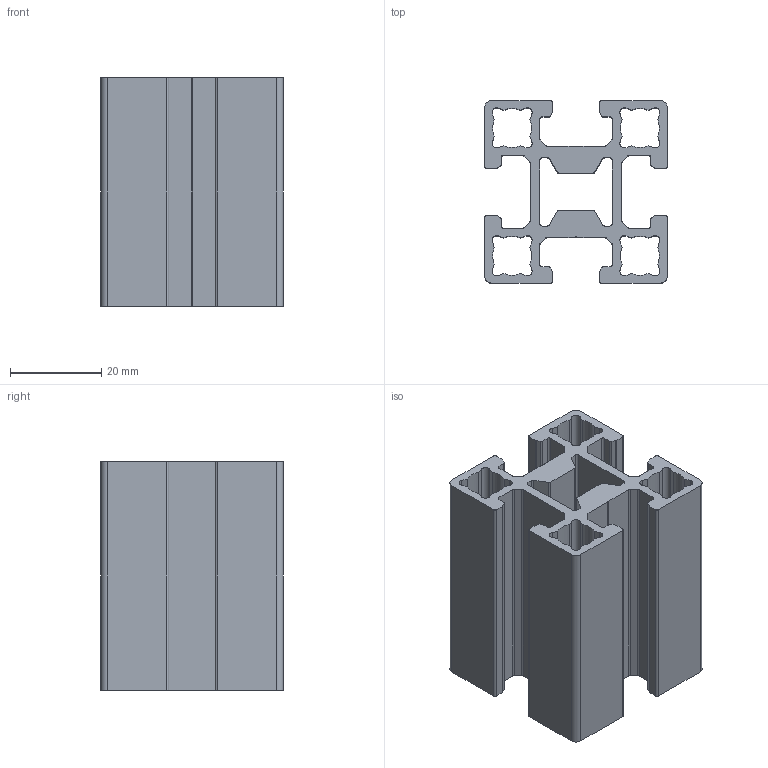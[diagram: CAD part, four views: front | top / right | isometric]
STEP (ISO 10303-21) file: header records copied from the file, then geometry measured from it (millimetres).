
FILE_DESCRIPTION(('STEP AP214'),'1');
FILE_NAME('F44L-.stp','2017-07-14T08:00:55',(' '),(' '),'Spatial InterOp 3D',' ',' ');
FILE_SCHEMA(('automotive_design'));
Length unit declared in the file: millimetre
Products named in the file (1): F44L-
Bounding box: 40 x 40 x 50 mm (x, y, z)
Volume: 29863.4 mm3; surface area: 24987.2 mm2
Topology: 1 solids, 1 shells, 202 faces, 600 edges, 400 vertices
Faces by surface type: plane 104, cylinder 98
Entity records: 8472 total; most frequent: CARTESIAN_POINT 1203, DIRECTION 1202, ORIENTED_EDGE 1200, EDGE_CURVE 600, LINE 404, VECTOR 404, VERTEX_POINT 400, AXIS2_PLACEMENT_3D 399
